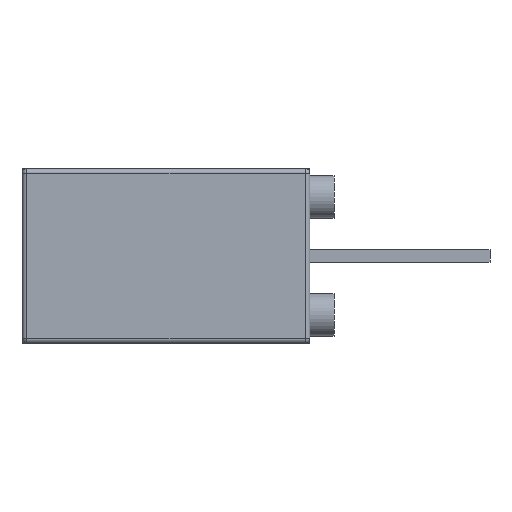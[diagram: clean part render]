
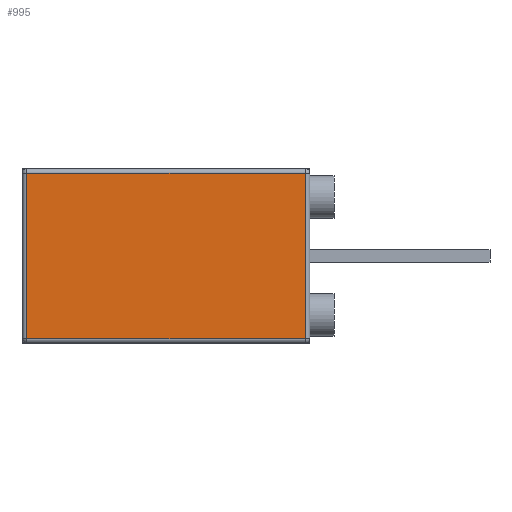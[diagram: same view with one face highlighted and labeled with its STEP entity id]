
A CAD part, left-side view. The second image highlights one B-rep face of the part: STEP entity #995.
In plain terms, the highlighted planar face has unit normal (-1, 0, 0).
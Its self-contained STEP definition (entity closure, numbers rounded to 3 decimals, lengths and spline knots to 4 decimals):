
#986 = VERTEX_POINT ( 'NONE', #11028 ) ;
#991 = EDGE_CURVE ( 'NONE', #986, #1008, #11021, .T. ) ;
#992 = ORIENTED_EDGE ( 'NONE', *, *, #991, .T. ) ;
#995 = ADVANCED_FACE ( 'NONE', ( #11056 ), #11054, .T. ) ;
#996 = EDGE_LOOP ( 'NONE', ( #992, #998, #35291, #35277 ) ) ;
#997 = EDGE_CURVE ( 'NONE', #1008, #1009, #11055, .T. ) ;
#998 = ORIENTED_EDGE ( 'NONE', *, *, #997, .T. ) ;
#1008 = VERTEX_POINT ( 'NONE', #11089 ) ;
#1009 = VERTEX_POINT ( 'NONE', #11088 ) ;
#11018 = DIRECTION ( 'NONE',  ( 0., -1., 0. ) ) ;
#11019 = VECTOR ( 'NONE', #11018, 1000. ) ;
#11020 = CARTESIAN_POINT ( 'NONE',  ( -5., 0., -1.75 ) ) ;
#11021 = LINE ( 'NONE', #11020, #11019 ) ;
#11028 = CARTESIAN_POINT ( 'NONE',  ( -5., 5.992, -1.75 ) ) ;
#11047 = DIRECTION ( 'NONE',  ( 0., 0., 1. ) ) ;
#11048 = VECTOR ( 'NONE', #11047, 1000. ) ;
#11049 = CARTESIAN_POINT ( 'NONE',  ( -5., 0.1, 1.85 ) ) ;
#11050 = DIRECTION ( 'NONE',  ( 0., 0., 1. ) ) ;
#11051 = DIRECTION ( 'NONE',  ( -1., 0., 0. ) ) ;
#11052 = CARTESIAN_POINT ( 'NONE',  ( -5., 0., -1.85 ) ) ;
#11053 = AXIS2_PLACEMENT_3D ( 'NONE', #11052, #11051, #11050 ) ;
#11054 = PLANE ( 'NONE',  #11053 ) ;
#11055 = LINE ( 'NONE', #11049, #11048 ) ;
#11056 = FACE_OUTER_BOUND ( 'NONE', #996, .T. ) ;
#11088 = CARTESIAN_POINT ( 'NONE',  ( -5., 0.1, 1.75 ) ) ;
#11089 = CARTESIAN_POINT ( 'NONE',  ( -5., 0.1, -1.75 ) ) ;
#33790 = DIRECTION ( 'NONE',  ( 0., 1., 0. ) ) ;
#33791 = VECTOR ( 'NONE', #33790, 1000. ) ;
#33792 = CARTESIAN_POINT ( 'NONE',  ( -5., 6.092, 1.75 ) ) ;
#33793 = LINE ( 'NONE', #33792, #33791 ) ;
#33795 = CARTESIAN_POINT ( 'NONE',  ( -5., 5.992, 1.75 ) ) ;
#33847 = DIRECTION ( 'NONE',  ( 0., 0., -1. ) ) ;
#33848 = VECTOR ( 'NONE', #33847, 1000. ) ;
#33849 = CARTESIAN_POINT ( 'NONE',  ( -5., 5.992, -1.85 ) ) ;
#33850 = LINE ( 'NONE', #33849, #33848 ) ;
#35277 = ORIENTED_EDGE ( 'NONE', *, *, #35304, .T. ) ;
#35291 = ORIENTED_EDGE ( 'NONE', *, *, #35302, .T. ) ;
#35294 = VERTEX_POINT ( 'NONE', #33795 ) ;
#35302 = EDGE_CURVE ( 'NONE', #1009, #35294, #33793, .T. ) ;
#35304 = EDGE_CURVE ( 'NONE', #35294, #986, #33850, .T. ) ;
